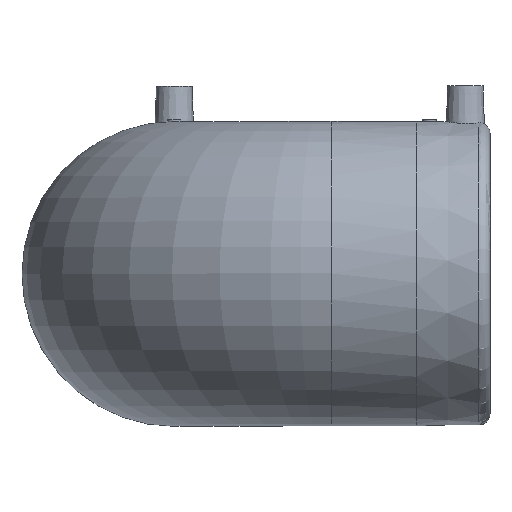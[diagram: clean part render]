
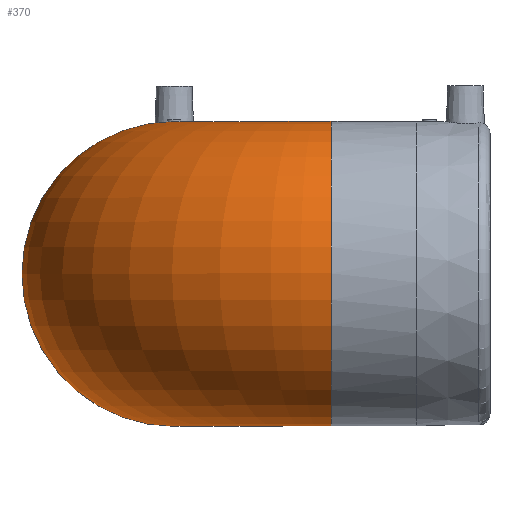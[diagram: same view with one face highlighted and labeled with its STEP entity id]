
A CAD part, top view. The second image highlights one B-rep face of the part: STEP entity #370.
In plain terms, the highlighted toroidal (fillet/blend) face has major radius 70 mm and minor radius 68 mm.
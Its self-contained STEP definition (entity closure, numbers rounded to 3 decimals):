
#47=TOROIDAL_SURFACE('',#428,70.,68.);
#56=CIRCLE('',#418,68.);
#58=CIRCLE('',#422,68.);
#105=ORIENTED_EDGE('',*,*,#166,.F.);
#106=ORIENTED_EDGE('',*,*,#168,.T.);
#166=EDGE_CURVE('',#203,#203,#56,.F.);
#168=EDGE_CURVE('',#205,#205,#58,.F.);
#203=VERTEX_POINT('',#668);
#205=VERTEX_POINT('',#674);
#258=EDGE_LOOP('',(#105));
#259=EDGE_LOOP('',(#106));
#317=FACE_BOUND('',#258,.T.);
#318=FACE_BOUND('',#259,.T.);
#370=ADVANCED_FACE('',(#317,#318),#47,.T.);
#418=AXIS2_PLACEMENT_3D('',#667,#492,#493);
#422=AXIS2_PLACEMENT_3D('',#673,#500,#501);
#428=AXIS2_PLACEMENT_3D('',#710,#512,#513);
#492=DIRECTION('',(-1.,0.,0.));
#493=DIRECTION('',(0.,0.,-1.));
#500=DIRECTION('',(0.,0.,-1.));
#501=DIRECTION('',(1.,0.,0.));
#512=DIRECTION('',(0.,1.,0.));
#513=DIRECTION('',(0.,0.,1.));
#667=CARTESIAN_POINT('',(70.,0.,141.));
#668=CARTESIAN_POINT('',(70.,0.,73.));
#673=CARTESIAN_POINT('',(0.,0.,71.));
#674=CARTESIAN_POINT('',(68.,0.,71.));
#710=CARTESIAN_POINT('',(70.,0.,71.));
